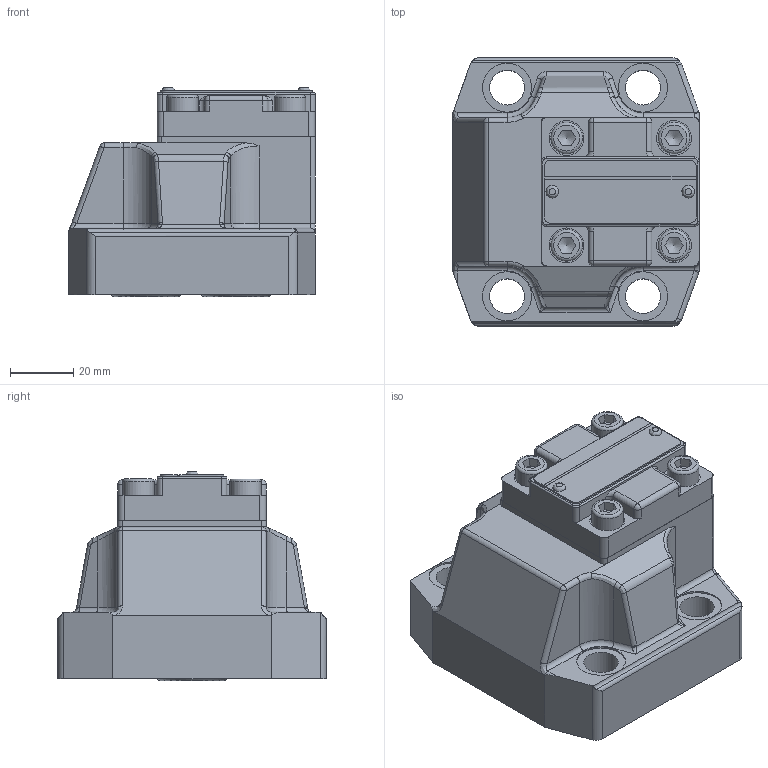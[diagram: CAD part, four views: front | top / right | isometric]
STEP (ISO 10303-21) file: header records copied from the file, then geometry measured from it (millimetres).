
FILE_DESCRIPTION(/* description */ (''),/* implementation_level */ '2;1');
FILE_NAME(/* name */ 'S10P板式单向阀.prt.stp',/* time_stamp */ '2022-03-30T19:17:25+08:00',/* author */ (''),/* organization */ (''),/* preprocessor_version */ 'ST-DEVELOPER v16.7',/* originating_system */ 'SIEMENS PLM Software NX 12.0',/* authorisation */ '');
FILE_SCHEMA (('AUTOMOTIVE_DESIGN { 1 0 10303 214 3 1 1 1 }'));
Products named in the file (1): S10P板式单向阀
Bounding box: 78 x 85 x 66.17 mm (x, y, z)
Volume: 257292.9 mm3; surface area: 45342.5 mm2
Topology: 11 solids, 11 shells, 385 faces, 923 edges, 567 vertices
Faces by surface type: plane 150, cylinder 142, bspline 48, torus 27, cone 14, sphere 4
Full cylindrical faces by diameter (mm): 1.8 x6, 5 x10, 6 x1, 7 x4, 10 x4, 11 x8, 15 x2, 15.5 x4, 21.8 x2
Entity records: 43215 total; most frequent: CARTESIAN_POINT 35076, DIRECTION 1622, ORIENTED_EDGE 1582, EDGE_CURVE 791, AXIS2_PLACEMENT_3D 644, VERTEX_POINT 521, EDGE_LOOP 464, ADVANCED_FACE 375
